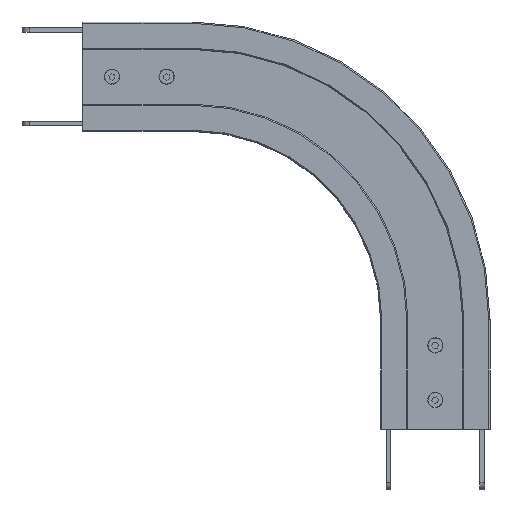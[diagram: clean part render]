
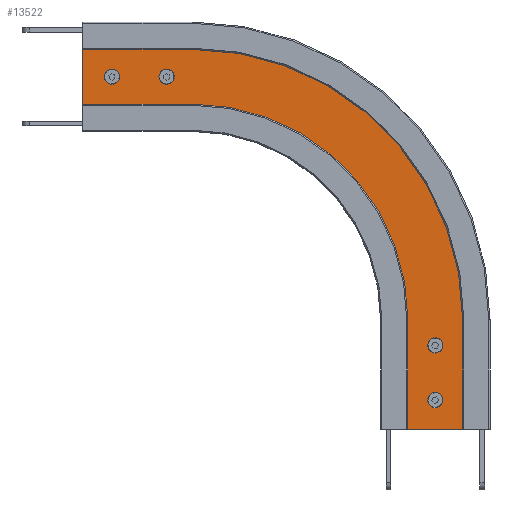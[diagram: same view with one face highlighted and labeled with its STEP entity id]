
A CAD part, front view. The second image highlights one B-rep face of the part: STEP entity #13522.
In plain terms, the highlighted planar face has unit normal (0, -1, 0) as drawn and (0, 1, 0) by its records, which use the part's own axes.
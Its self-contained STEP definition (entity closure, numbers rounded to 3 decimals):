
#45 = CARTESIAN_POINT ( 'NONE',  ( 266., 10.5, -283.7 ) ) ;
#143 = DIRECTION ( 'NONE',  ( 0., 0., -1. ) ) ;
#201 = CARTESIAN_POINT ( 'NONE',  ( 0., 10.5, -62.7 ) ) ;
#208 = DIRECTION ( 'NONE',  ( 0., 0., 1. ) ) ;
#216 = DIRECTION ( 'NONE',  ( 0., -1., 0. ) ) ;
#437 = AXIS2_PLACEMENT_3D ( 'NONE', #12071, #3632, #13449 ) ;
#564 = CARTESIAN_POINT ( 'NONE',  ( 0., 10.5, -24. ) ) ;
#592 = CARTESIAN_POINT ( 'NONE',  ( 221., 10.5, -296.3 ) ) ;
#607 = DIRECTION ( 'NONE',  ( 0., 1., 0. ) ) ;
#854 = AXIS2_PLACEMENT_3D ( 'NONE', #3491, #216, #1238 ) ;
#860 = VERTEX_POINT ( 'NONE', #201 ) ;
#957 = AXIS2_PLACEMENT_3D ( 'NONE', #4194, #5212, #12659 ) ;
#1033 = EDGE_CURVE ( 'NONE', #6234, #11961, #8766, .T. ) ;
#1220 = CARTESIAN_POINT ( 'NONE',  ( 290., 10.5, -325. ) ) ;
#1233 = CIRCLE ( 'NONE', #854, 235. ) ;
#1238 = DIRECTION ( 'NONE',  ( 0., 0., -1. ) ) ;
#1428 = CIRCLE ( 'NONE', #11330, 6.3 ) ;
#1582 = CARTESIAN_POINT ( 'NONE',  ( 221., 10.5, -290. ) ) ;
#1629 = DIRECTION ( 'NONE',  ( 0., 0., 1. ) ) ;
#1657 = EDGE_LOOP ( 'NONE', ( #9540, #13038 ) ) ;
#1660 = CARTESIAN_POINT ( 'NONE',  ( -35., 10.5, 0. ) ) ;
#1673 = EDGE_LOOP ( 'NONE', ( #10579, #7142 ) ) ;
#1770 = EDGE_CURVE ( 'NONE', #3150, #13385, #10581, .T. ) ;
#1816 = EDGE_CURVE ( 'NONE', #4048, #2136, #8416, .T. ) ;
#2136 = VERTEX_POINT ( 'NONE', #5598 ) ;
#2217 = VERTEX_POINT ( 'NONE', #13359 ) ;
#2261 = CARTESIAN_POINT ( 'NONE',  ( 200., 10.5, -90. ) ) ;
#2379 = FACE_BOUND ( 'NONE', #1657, .T. ) ;
#2412 = VECTOR ( 'NONE', #6170, 1000. ) ;
#2458 = DIRECTION ( 'NONE',  ( 0., 0., -1. ) ) ;
#2599 = VECTOR ( 'NONE', #208, 1000. ) ;
#2643 = EDGE_CURVE ( 'NONE', #2136, #11961, #8049, .T. ) ;
#3074 = ORIENTED_EDGE ( 'NONE', *, *, #2643, .T. ) ;
#3150 = VERTEX_POINT ( 'NONE', #45 ) ;
#3474 = DIRECTION ( 'NONE',  ( 1., 0., 0. ) ) ;
#3491 = CARTESIAN_POINT ( 'NONE',  ( 200., 10.5, -90. ) ) ;
#3632 = DIRECTION ( 'NONE',  ( 0., 1., 0. ) ) ;
#3664 = CIRCLE ( 'NONE', #11368, 6.3 ) ;
#3816 = CARTESIAN_POINT ( 'NONE',  ( 0., 10.5, -17.7 ) ) ;
#3835 = EDGE_LOOP ( 'NONE', ( #12600, #6318 ) ) ;
#3961 = AXIS2_PLACEMENT_3D ( 'NONE', #2261, #7618, #2458 ) ;
#4004 = CIRCLE ( 'NONE', #6762, 6.3 ) ;
#4048 = VERTEX_POINT ( 'NONE', #12471 ) ;
#4194 = CARTESIAN_POINT ( 'NONE',  ( -35., 10.5, -90. ) ) ;
#4367 = AXIS2_PLACEMENT_3D ( 'NONE', #1582, #5828, #11150 ) ;
#4533 = ORIENTED_EDGE ( 'NONE', *, *, #6013, .F. ) ;
#4662 = VERTEX_POINT ( 'NONE', #6218 ) ;
#4749 = DIRECTION ( 'NONE',  ( 0., 0., 1. ) ) ;
#4852 = DIRECTION ( 'NONE',  ( -1., 0., 0. ) ) ;
#4928 = ORIENTED_EDGE ( 'NONE', *, *, #12698, .F. ) ;
#5212 = DIRECTION ( 'NONE',  ( 0., 1., 0. ) ) ;
#5290 = CIRCLE ( 'NONE', #12188, 6.3 ) ;
#5384 = CARTESIAN_POINT ( 'NONE',  ( 290., 10.5, -325. ) ) ;
#5447 = LINE ( 'NONE', #13170, #2599 ) ;
#5598 = CARTESIAN_POINT ( 'NONE',  ( 290., 10.5, -255. ) ) ;
#5700 = VECTOR ( 'NONE', #13675, 1000. ) ;
#5828 = DIRECTION ( 'NONE',  ( 0., 1., 0. ) ) ;
#5864 = CARTESIAN_POINT ( 'NONE',  ( 35., 10.5, -90. ) ) ;
#5899 = ORIENTED_EDGE ( 'NONE', *, *, #9879, .T. ) ;
#5983 = CIRCLE ( 'NONE', #3961, 165. ) ;
#6013 = EDGE_CURVE ( 'NONE', #8267, #9341, #8704, .T. ) ;
#6170 = DIRECTION ( 'NONE',  ( 1., 0., 0. ) ) ;
#6218 = CARTESIAN_POINT ( 'NONE',  ( -35., 10.5, -90. ) ) ;
#6234 = VERTEX_POINT ( 'NONE', #7568 ) ;
#6278 = EDGE_LOOP ( 'NONE', ( #6420, #4533, #8003, #13443, #3074, #6319, #4928, #5899 ) ) ;
#6318 = ORIENTED_EDGE ( 'NONE', *, *, #8247, .F. ) ;
#6319 = ORIENTED_EDGE ( 'NONE', *, *, #1033, .F. ) ;
#6402 = DIRECTION ( 'NONE',  ( 0., 0., 1. ) ) ;
#6420 = ORIENTED_EDGE ( 'NONE', *, *, #11332, .F. ) ;
#6706 = FACE_BOUND ( 'NONE', #7956, .T. ) ;
#6762 = AXIS2_PLACEMENT_3D ( 'NONE', #7971, #12315, #9102 ) ;
#6946 = EDGE_CURVE ( 'NONE', #9153, #860, #4004, .T. ) ;
#7045 = CIRCLE ( 'NONE', #4367, 6.3 ) ;
#7142 = ORIENTED_EDGE ( 'NONE', *, *, #6946, .F. ) ;
#7211 = VERTEX_POINT ( 'NONE', #11850 ) ;
#7425 = PLANE ( 'NONE',  #957 ) ;
#7427 = DIRECTION ( 'NONE',  ( 0., 1., 0. ) ) ;
#7568 = CARTESIAN_POINT ( 'NONE',  ( 200., 10.5, -325. ) ) ;
#7618 = DIRECTION ( 'NONE',  ( 0., -1., 0. ) ) ;
#7953 = DIRECTION ( 'NONE',  ( 0., 1., 0. ) ) ;
#7956 = EDGE_LOOP ( 'NONE', ( #10309, #12752 ) ) ;
#7971 = CARTESIAN_POINT ( 'NONE',  ( 0., 10.5, -69. ) ) ;
#7993 = CARTESIAN_POINT ( 'NONE',  ( 0., 10.5, -24. ) ) ;
#8003 = ORIENTED_EDGE ( 'NONE', *, *, #8155, .T. ) ;
#8049 = LINE ( 'NONE', #1220, #8231 ) ;
#8071 = AXIS2_PLACEMENT_3D ( 'NONE', #11887, #7427, #6402 ) ;
#8155 = EDGE_CURVE ( 'NONE', #8267, #4048, #5983, .T. ) ;
#8231 = VECTOR ( 'NONE', #143, 1000. ) ;
#8247 = EDGE_CURVE ( 'NONE', #11260, #8417, #3664, .T. ) ;
#8267 = VERTEX_POINT ( 'NONE', #5864 ) ;
#8416 = LINE ( 'NONE', #8598, #11748 ) ;
#8417 = VERTEX_POINT ( 'NONE', #3816 ) ;
#8598 = CARTESIAN_POINT ( 'NONE',  ( 200., 10.5, -255. ) ) ;
#8704 = LINE ( 'NONE', #11370, #5700 ) ;
#8766 = LINE ( 'NONE', #9349, #2412 ) ;
#8793 = CARTESIAN_POINT ( 'NONE',  ( 0., 10.5, -69. ) ) ;
#8867 = CARTESIAN_POINT ( 'NONE',  ( 0., 10.5, -75.3 ) ) ;
#8894 = FACE_BOUND ( 'NONE', #1673, .T. ) ;
#9006 = CARTESIAN_POINT ( 'NONE',  ( 266., 10.5, -296.3 ) ) ;
#9047 = DIRECTION ( 'NONE',  ( 0., 0., 1. ) ) ;
#9102 = DIRECTION ( 'NONE',  ( 0., 0., 1. ) ) ;
#9153 = VERTEX_POINT ( 'NONE', #8867 ) ;
#9311 = EDGE_CURVE ( 'NONE', #13385, #3150, #5290, .T. ) ;
#9341 = VERTEX_POINT ( 'NONE', #12177 ) ;
#9349 = CARTESIAN_POINT ( 'NONE',  ( 200., 10.5, -325. ) ) ;
#9508 = AXIS2_PLACEMENT_3D ( 'NONE', #8793, #13157, #4749 ) ;
#9540 = ORIENTED_EDGE ( 'NONE', *, *, #1770, .F. ) ;
#9560 = FACE_BOUND ( 'NONE', #3835, .T. ) ;
#9677 = EDGE_CURVE ( 'NONE', #2217, #12912, #11618, .T. ) ;
#9704 = FACE_OUTER_BOUND ( 'NONE', #6278, .T. ) ;
#9879 = EDGE_CURVE ( 'NONE', #4662, #7211, #5447, .T. ) ;
#10134 = CIRCLE ( 'NONE', #9508, 6.3 ) ;
#10309 = ORIENTED_EDGE ( 'NONE', *, *, #9677, .F. ) ;
#10579 = ORIENTED_EDGE ( 'NONE', *, *, #11664, .F. ) ;
#10581 = CIRCLE ( 'NONE', #437, 6.3 ) ;
#11150 = DIRECTION ( 'NONE',  ( 0., 0., 1. ) ) ;
#11260 = VERTEX_POINT ( 'NONE', #13229 ) ;
#11330 = AXIS2_PLACEMENT_3D ( 'NONE', #564, #607, #1629 ) ;
#11332 = EDGE_CURVE ( 'NONE', #9341, #7211, #11731, .T. ) ;
#11368 = AXIS2_PLACEMENT_3D ( 'NONE', #7993, #7953, #12121 ) ;
#11370 = CARTESIAN_POINT ( 'NONE',  ( 35., 10.5, -90. ) ) ;
#11404 = VECTOR ( 'NONE', #4852, 1000. ) ;
#11618 = CIRCLE ( 'NONE', #8071, 6.3 ) ;
#11664 = EDGE_CURVE ( 'NONE', #860, #9153, #10134, .T. ) ;
#11731 = LINE ( 'NONE', #1660, #11404 ) ;
#11748 = VECTOR ( 'NONE', #3474, 1000. ) ;
#11850 = CARTESIAN_POINT ( 'NONE',  ( -35., 10.5, 0. ) ) ;
#11887 = CARTESIAN_POINT ( 'NONE',  ( 221., 10.5, -290. ) ) ;
#11961 = VERTEX_POINT ( 'NONE', #5384 ) ;
#12071 = CARTESIAN_POINT ( 'NONE',  ( 266., 10.5, -290. ) ) ;
#12121 = DIRECTION ( 'NONE',  ( 0., 0., 1. ) ) ;
#12177 = CARTESIAN_POINT ( 'NONE',  ( 35., 10.5, 0. ) ) ;
#12188 = AXIS2_PLACEMENT_3D ( 'NONE', #13187, #12310, #9047 ) ;
#12310 = DIRECTION ( 'NONE',  ( 0., 1., 0. ) ) ;
#12315 = DIRECTION ( 'NONE',  ( 0., 1., 0. ) ) ;
#12378 = EDGE_CURVE ( 'NONE', #8417, #11260, #1428, .T. ) ;
#12471 = CARTESIAN_POINT ( 'NONE',  ( 200., 10.5, -255. ) ) ;
#12600 = ORIENTED_EDGE ( 'NONE', *, *, #12378, .F. ) ;
#12659 = DIRECTION ( 'NONE',  ( 0., 0., 1. ) ) ;
#12698 = EDGE_CURVE ( 'NONE', #4662, #6234, #1233, .T. ) ;
#12752 = ORIENTED_EDGE ( 'NONE', *, *, #13278, .F. ) ;
#12912 = VERTEX_POINT ( 'NONE', #592 ) ;
#13038 = ORIENTED_EDGE ( 'NONE', *, *, #9311, .F. ) ;
#13157 = DIRECTION ( 'NONE',  ( 0., 1., 0. ) ) ;
#13170 = CARTESIAN_POINT ( 'NONE',  ( -35., 10.5, -90. ) ) ;
#13187 = CARTESIAN_POINT ( 'NONE',  ( 266., 10.5, -290. ) ) ;
#13229 = CARTESIAN_POINT ( 'NONE',  ( 0., 10.5, -30.3 ) ) ;
#13278 = EDGE_CURVE ( 'NONE', #12912, #2217, #7045, .T. ) ;
#13359 = CARTESIAN_POINT ( 'NONE',  ( 221., 10.5, -283.7 ) ) ;
#13385 = VERTEX_POINT ( 'NONE', #9006 ) ;
#13443 = ORIENTED_EDGE ( 'NONE', *, *, #1816, .T. ) ;
#13449 = DIRECTION ( 'NONE',  ( 0., 0., 1. ) ) ;
#13522 = ADVANCED_FACE ( 'NONE', ( #9560, #8894, #6706, #2379, #9704 ), #7425, .T. ) ;
#13675 = DIRECTION ( 'NONE',  ( 0., 0., 1. ) ) ;
